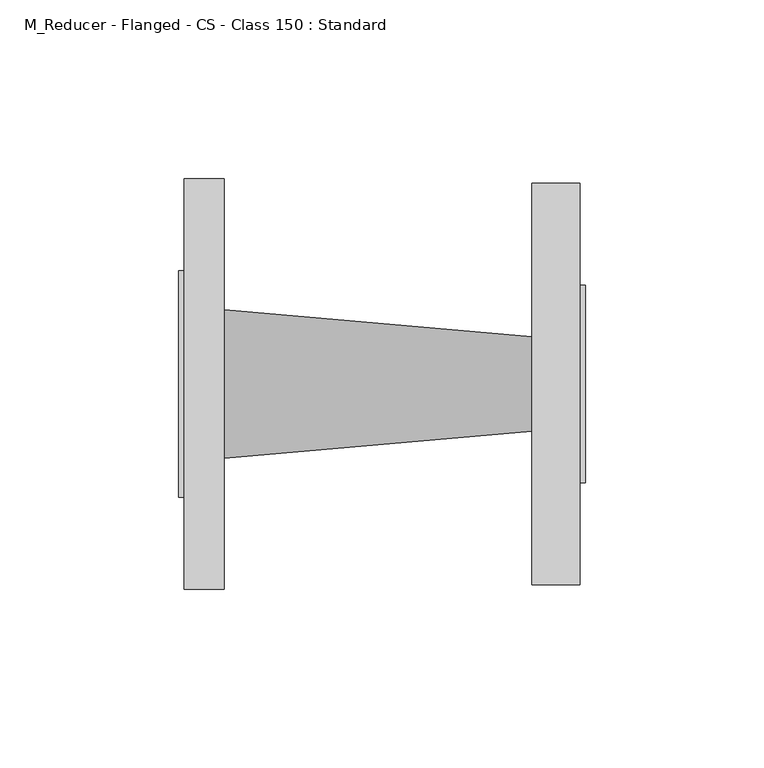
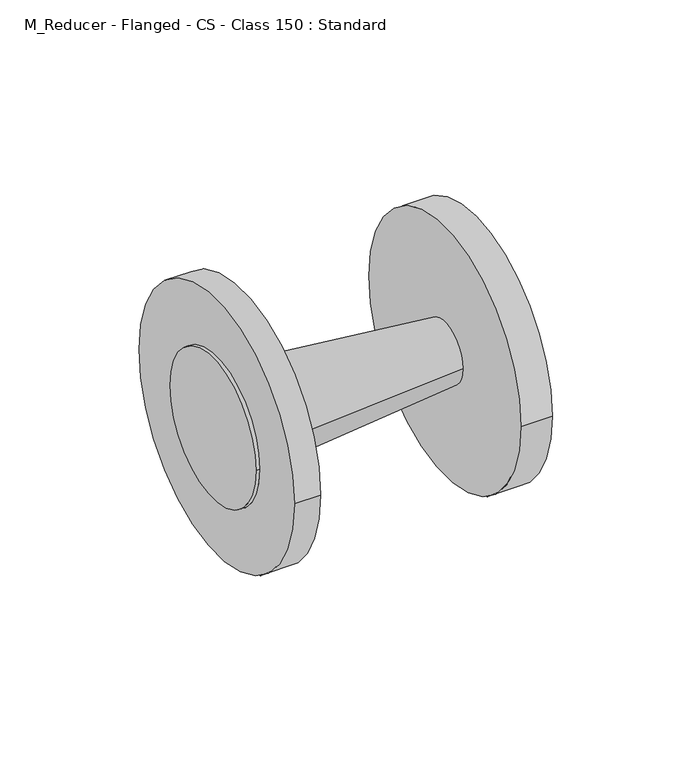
"""IFC4 building model written with IfcOpenShell, lengths in millimetres: pipe fitting geometry, M_Reducer - Flanged - CS - Class 150 : Standard."""

from ifc_helpers import new_model, si_unit, frame, origin, place, context, project, spatial, polyline, circle_curve, source, transform, mapped, element, save
from ifc_brep_helpers import plane_surface, cylinder_surface, revolved_surface, advanced_brep


def m_reducer_flanged_cs_class_150_standard_678fb8eb(model_context):
    return source(origin(), model_context, "Body", "AdvancedBrep", [
        advanced_brep(
        [(12.7875, -57.5, 0.0), (12.7875, 57.5, 0.0), (12.7875, 20.8, 0.0), (12.7875, -20.8, 0.0), (1.5875, -57.5, 0.0), (1.5875, 57.5, 0.0), (1.5875, -31.75, 0.0), (1.5875, 31.75, 0.0), (99.0109375, 13.2558594, 0.0), (99.0109375, -13.2558594, 0.0), (112.4125, -56.1554688, 0.0), (112.4125, 56.1554687, 0.0), (112.4125, 27.5976562, 0.0), (112.4125, -27.5976563, 0.0), (99.0109375, -56.1554688, 0.0), (99.0109375, 56.1554687, 0.0), (0.0, -31.75, 0.0), (0.0, 31.75, 0.0), (114.0, -27.5976563, 0.0), (114.0, 27.5976562, 0.0)],
        [
            (0, 1, circle_curve(frame((12.7875, 0.0, 0.0), z_axis=(1.0, 0.0, 0.0), x_axis=(0.0, 1.0, 0.0)), 57.5)),
            (1, 0, circle_curve(frame((12.7875, 0.0, 0.0), z_axis=(1.0, 0.0, 0.0), x_axis=(0.0, 1.0, 0.0)), 57.5)),
            (2, 3, circle_curve(frame((12.7875, 0.0, 0.0), z_axis=(-1.0, 0.0, 0.0), x_axis=(0.0, -1.0, 0.0)), 20.8)),
            (3, 2, circle_curve(frame((12.7875, 0.0, 0.0), z_axis=(-1.0, 0.0, 0.0), x_axis=(0.0, 1.0, 0.0)), 20.8)),
            (4, 5, circle_curve(frame((1.5875, 0.0, 0.0), z_axis=(-1.0, 0.0, 0.0), x_axis=(0.0, 1.0, 0.0)), 57.5)),
            (5, 4, circle_curve(frame((1.5875, 0.0, 0.0), z_axis=(-1.0, 0.0, 0.0), x_axis=(0.0, 1.0, 0.0)), 57.5)),
            (6, 7, circle_curve(frame((1.5875, 0.0, 0.0), z_axis=(1.0, 0.0, 0.0), x_axis=(0.0, 1.0, 0.0)), 31.75)),
            (7, 6, circle_curve(frame((1.5875, 0.0, 0.0), z_axis=(1.0, 0.0, 0.0), x_axis=(0.0, 1.0, 0.0)), 31.75)),
            (0, 4),
            (5, 1),
            (2, 8),
            (8, 9, circle_curve(frame((99.0109375, 0.0, 0.0), z_axis=(-1.0, 0.0, 0.0), x_axis=(0.0, -1.0, 0.0)), 13.2558594)),
            (9, 3),
            (9, 8, circle_curve(frame((99.0109375, 0.0, 0.0), z_axis=(-1.0, 0.0, 0.0), x_axis=(0.0, 1.0, 0.0)), 13.2558594)),
            (10, 11, circle_curve(frame((112.4125, 0.0, 0.0), z_axis=(1.0, 0.0, 0.0), x_axis=(0.0, 1.0, 0.0)), 56.1554687)),
            (11, 10, circle_curve(frame((112.4125, 0.0, 0.0), z_axis=(1.0, 0.0, 0.0), x_axis=(0.0, 1.0, 0.0)), 56.1554687)),
            (12, 13, circle_curve(frame((112.4125, 0.0, 0.0), z_axis=(-1.0, 0.0, 0.0), x_axis=(0.0, 1.0, 0.0)), 27.5976563)),
            (13, 12, circle_curve(frame((112.4125, 0.0, 0.0), z_axis=(-1.0, 0.0, 0.0), x_axis=(0.0, 1.0, 0.0)), 27.5976563)),
            (14, 15, circle_curve(frame((99.0109375, 0.0, 0.0), z_axis=(-1.0, 0.0, 0.0), x_axis=(0.0, 1.0, 0.0)), 56.1554687)),
            (15, 14, circle_curve(frame((99.0109375, 0.0, 0.0), z_axis=(-1.0, 0.0, 0.0), x_axis=(0.0, 1.0, 0.0)), 56.1554687)),
            (10, 14),
            (15, 11),
            (16, 17, circle_curve(frame((0.0, 0.0, 0.0), z_axis=(-1.0, 0.0, 0.0), x_axis=(0.0, 1.0, 0.0)), 31.75)),
            (17, 16, circle_curve(frame((0.0, 0.0, 0.0), z_axis=(-1.0, 0.0, 0.0), x_axis=(0.0, 1.0, 0.0)), 31.75)),
            (17, 7),
            (6, 16),
            (18, 19, circle_curve(frame((114.0, 0.0, 0.0), z_axis=(1.0, 0.0, 0.0), x_axis=(0.0, 1.0, 0.0)), 27.5976563)),
            (19, 18, circle_curve(frame((114.0, 0.0, 0.0), z_axis=(1.0, 0.0, 0.0), x_axis=(0.0, 1.0, 0.0)), 27.5976563)),
            (18, 13),
            (12, 19),
        ],
        [
            plane_surface(frame((12.7875, 57.5, 0.0), z_axis=(1.0, 0.0, 0.0), x_axis=(0.0, 0.0, 1.0))),
            plane_surface(frame((1.5875, 57.5, 0.0), z_axis=(-1.0, 0.0, 0.0), x_axis=(0.0, 0.0, -1.0))),
            cylinder_surface(frame((1.5875, 0.0, 0.0), z_axis=(1.0, 0.0, 0.0), x_axis=(0.0, 1.0, 0.0)), 57.5),
            revolved_surface(polyline([(99.01093749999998, 13.255859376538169, 0.0), (12.787499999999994, 20.8, 0.0)]), (250.5147097, 0.0, 0.0), (-1.0, 0.0, 0.0)),
            plane_surface(frame((112.4125, 56.1554687, 0.0), z_axis=(1.0, 0.0, 0.0), x_axis=(0.0, 0.0, 1.0))),
            plane_surface(frame((99.0109375, 56.1554687, 0.0), z_axis=(-1.0, 0.0, 0.0), x_axis=(0.0, 0.0, -1.0))),
            cylinder_surface(frame((99.0109375, 0.0, 0.0), z_axis=(1.0, 0.0, 0.0), x_axis=(0.0, 1.0, 0.0)), 56.1554687),
            plane_surface(frame((0.0, 31.75, 0.0), z_axis=(-1.0, 0.0, 0.0), x_axis=(0.0, 0.0, -1.0))),
            cylinder_surface(frame((0.0, 0.0, 0.0), z_axis=(1.0, 0.0, 0.0), x_axis=(0.0, 1.0, 0.0)), 31.75),
            plane_surface(frame((114.0, 27.5976562, 0.0), z_axis=(1.0, 0.0, 0.0), x_axis=(0.0, 0.0, 1.0))),
            cylinder_surface(frame((112.4125, 0.0, 0.0), z_axis=(1.0, 0.0, 0.0), x_axis=(0.0, 1.0, 0.0)), 27.5976563),
        ],
        [
            (0, [[1, 2], [3, 4]]),
            (1, [[5, 6], [7, 8]]),
            (2, [[-1, 9, -6, 10]]),
            (2, [[-2, -10, -5, -9]]),
            (3, [[11, 12, 13, -3]]),
            (3, [[-11, -4, -13, 14]]),
            (4, [[15, 16], [17, 18]]),
            (5, [[19, 20], [-12, -14]]),
            (6, [[-15, 21, -20, 22]]),
            (6, [[-16, -22, -19, -21]]),
            (7, [[23, 24]]),
            (8, [[-24, 25, -7, 26]]),
            (8, [[-23, -26, -8, -25]]),
            (9, [[27, 28]]),
            (10, [[-27, 29, -17, 30]]),
            (10, [[-28, -30, -18, -29]]),
        ],
    ),
    ])


if __name__ == "__main__":
    model = new_model("IFC4")
    model_context = context("Model", 3, world=origin())
    ifc_project = project(units=[si_unit("LENGTHUNIT", "METRE", prefix="MILLI")], contexts=[model_context])
    site = spatial("IfcSite", under=ifc_project)
    building = spatial("IfcBuilding", under=site)
    placement = place(None, origin())
    m_reducer_flanged_cs_class_150_standard_shape = m_reducer_flanged_cs_class_150_standard_678fb8eb(model_context)
    element("IfcPipeFitting", 1, ObjectType="M_Reducer - Flanged - CS - Class 150 : Standard", at=placement, inside=building, context=model_context, shape_type="MappedRepresentation", body=[
        mapped(m_reducer_flanged_cs_class_150_standard_shape, transform((0.0, 0.0, 0.0), x_axis=(1.0, 0.0, 0.0), y_axis=(0.0, 1.0, 0.0), z_axis=(0.0, 0.0, 1.0))),
    ])
    save(model, "model.ifc")
